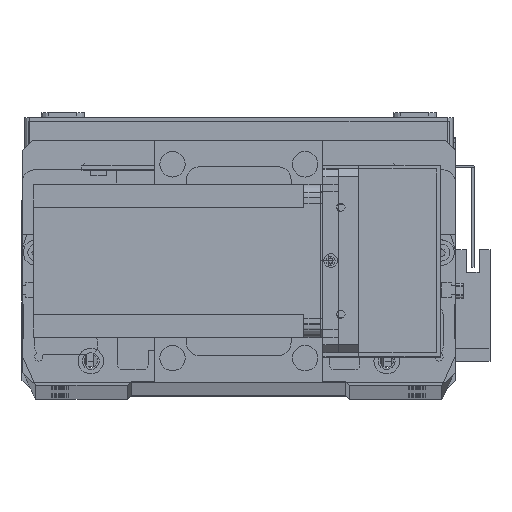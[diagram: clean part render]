
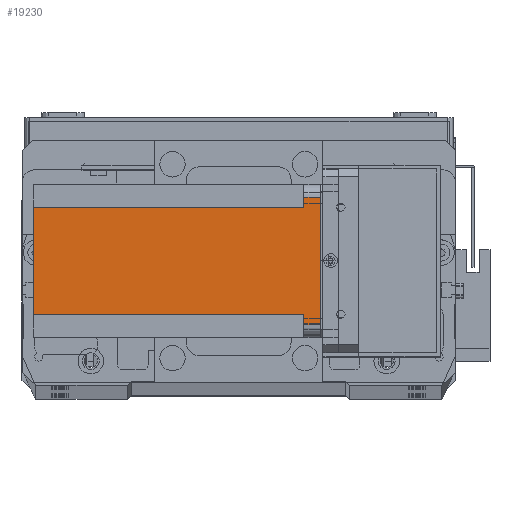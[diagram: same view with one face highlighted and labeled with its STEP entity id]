
A CAD part, top view. The second image highlights one B-rep face of the part: STEP entity #19230.
In plain terms, the highlighted planar face has unit normal (0, 0, 1) as drawn and (-1, 0, 0) by its records, which use the part's own axes.
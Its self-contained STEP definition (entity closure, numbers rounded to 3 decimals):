
#366 = VECTOR ( 'NONE', #29324, 1000. ) ;
#995 = ORIENTED_EDGE ( 'NONE', *, *, #17750, .T. ) ;
#1328 = VERTEX_POINT ( 'NONE', #32690 ) ;
#2201 = CARTESIAN_POINT ( 'NONE',  ( 0., 0., 0. ) ) ;
#2478 = CARTESIAN_POINT ( 'NONE',  ( 0., 51., -112.5 ) ) ;
#3201 = LINE ( 'NONE', #2201, #30461 ) ;
#3254 = ORIENTED_EDGE ( 'NONE', *, *, #17424, .T. ) ;
#4412 = CARTESIAN_POINT ( 'NONE',  ( 0., 5., -112.5 ) ) ;
#4486 = DIRECTION ( 'NONE',  ( 0., 1., 0. ) ) ;
#5633 = VERTEX_POINT ( 'NONE', #8586 ) ;
#6348 = DIRECTION ( 'NONE',  ( 0., -1., 0. ) ) ;
#7382 = DIRECTION ( 'NONE',  ( 0., 0., -1. ) ) ;
#8586 = CARTESIAN_POINT ( 'NONE',  ( 0., 5., -6.5 ) ) ;
#8649 = VERTEX_POINT ( 'NONE', #2478 ) ;
#10143 = CARTESIAN_POINT ( 'NONE',  ( 0., 9., -112.5 ) ) ;
#10146 = LINE ( 'NONE', #24768, #22530 ) ;
#11770 = EDGE_CURVE ( 'NONE', #8649, #1328, #15522, .T. ) ;
#11871 = VERTEX_POINT ( 'NONE', #16948 ) ;
#12894 = DIRECTION ( 'NONE',  ( -1., 0., 0. ) ) ;
#13480 = ORIENTED_EDGE ( 'NONE', *, *, #16704, .F. ) ;
#13937 = DIRECTION ( 'NONE',  ( 0., 0., 1. ) ) ;
#14843 = ORIENTED_EDGE ( 'NONE', *, *, #23748, .T. ) ;
#14893 = DIRECTION ( 'NONE',  ( 0., 0., 1. ) ) ;
#15249 = DIRECTION ( 'NONE',  ( 0., 0., -1. ) ) ;
#15423 = CARTESIAN_POINT ( 'NONE',  ( 0., 0., -112.5 ) ) ;
#15522 = LINE ( 'NONE', #16592, #18841 ) ;
#15585 = VERTEX_POINT ( 'NONE', #15885 ) ;
#15885 = CARTESIAN_POINT ( 'NONE',  ( 0., 5., 0. ) ) ;
#16334 = EDGE_CURVE ( 'NONE', #1328, #11871, #29237, .T. ) ;
#16592 = CARTESIAN_POINT ( 'NONE',  ( 0., 51., -112.5 ) ) ;
#16704 = EDGE_CURVE ( 'NONE', #29685, #32022, #31694, .T. ) ;
#16948 = CARTESIAN_POINT ( 'NONE',  ( 0., 55., -6.5 ) ) ;
#17424 = EDGE_CURVE ( 'NONE', #29550, #11871, #25453, .T. ) ;
#17616 = VECTOR ( 'NONE', #7382, 1000. ) ;
#17622 = CARTESIAN_POINT ( 'NONE',  ( 0., 0., -6.5 ) ) ;
#17704 = ORIENTED_EDGE ( 'NONE', *, *, #11770, .F. ) ;
#17750 = EDGE_CURVE ( 'NONE', #8649, #32022, #10146, .T. ) ;
#18841 = VECTOR ( 'NONE', #13937, 1000. ) ;
#19135 = FACE_OUTER_BOUND ( 'NONE', #31838, .T. ) ;
#19230 = ADVANCED_FACE ( 'NONE', ( #19135 ), #20730, .T. ) ;
#19532 = ORIENTED_EDGE ( 'NONE', *, *, #23262, .F. ) ;
#20730 = PLANE ( 'NONE',  #30534 ) ;
#21770 = ORIENTED_EDGE ( 'NONE', *, *, #16334, .F. ) ;
#22530 = VECTOR ( 'NONE', #6348, 1000. ) ;
#23262 = EDGE_CURVE ( 'NONE', #29550, #15585, #3201, .T. ) ;
#23630 = CARTESIAN_POINT ( 'NONE',  ( 0., 9., -6.5 ) ) ;
#23748 = EDGE_CURVE ( 'NONE', #5633, #15585, #25882, .T. ) ;
#24768 = CARTESIAN_POINT ( 'NONE',  ( 0., 0., -112.5 ) ) ;
#25453 = LINE ( 'NONE', #28910, #17616 ) ;
#25882 = LINE ( 'NONE', #4412, #31248 ) ;
#26792 = CARTESIAN_POINT ( 'NONE',  ( 0., 60., -6.5 ) ) ;
#26973 = ORIENTED_EDGE ( 'NONE', *, *, #28352, .F. ) ;
#28261 = CARTESIAN_POINT ( 'NONE',  ( 0., 55., 0. ) ) ;
#28352 = EDGE_CURVE ( 'NONE', #5633, #29685, #30925, .T. ) ;
#28374 = CARTESIAN_POINT ( 'NONE',  ( 0., 9., -112.5 ) ) ;
#28910 = CARTESIAN_POINT ( 'NONE',  ( 0., 55., -112.5 ) ) ;
#29237 = LINE ( 'NONE', #26792, #366 ) ;
#29324 = DIRECTION ( 'NONE',  ( 0., 1., 0. ) ) ;
#29550 = VERTEX_POINT ( 'NONE', #28261 ) ;
#29685 = VERTEX_POINT ( 'NONE', #23630 ) ;
#30461 = VECTOR ( 'NONE', #34046, 1000. ) ;
#30534 = AXIS2_PLACEMENT_3D ( 'NONE', #15423, #12894, #31337 ) ;
#30571 = VECTOR ( 'NONE', #4486, 1000. ) ;
#30925 = LINE ( 'NONE', #17622, #30571 ) ;
#31248 = VECTOR ( 'NONE', #14893, 1000. ) ;
#31337 = DIRECTION ( 'NONE',  ( 0., -1., 0. ) ) ;
#31694 = LINE ( 'NONE', #28374, #32540 ) ;
#31838 = EDGE_LOOP ( 'NONE', ( #26973, #14843, #19532, #3254, #21770, #17704, #995, #13480 ) ) ;
#32022 = VERTEX_POINT ( 'NONE', #10143 ) ;
#32540 = VECTOR ( 'NONE', #15249, 1000. ) ;
#32690 = CARTESIAN_POINT ( 'NONE',  ( 0., 51., -6.5 ) ) ;
#34046 = DIRECTION ( 'NONE',  ( 0., -1., 0. ) ) ;
